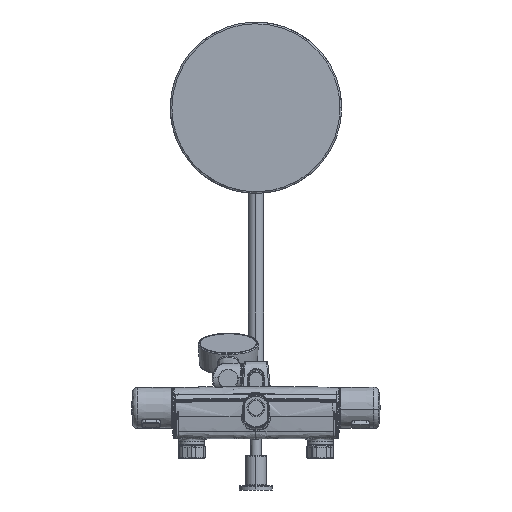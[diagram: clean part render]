
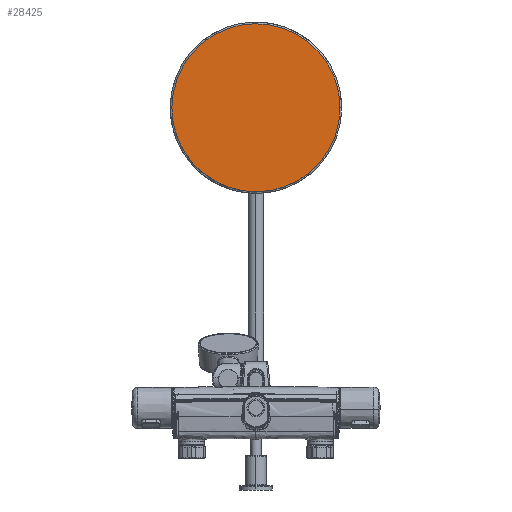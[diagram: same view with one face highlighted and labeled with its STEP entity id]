
A CAD part, front view. The second image highlights one B-rep face of the part: STEP entity #28425.
In plain terms, the highlighted planar face has unit normal (0, -1, 0).
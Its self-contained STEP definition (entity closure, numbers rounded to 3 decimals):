
#2043 = CARTESIAN_POINT ( 'NONE',  ( -31.577, 984.9, 442.995 ) ) ;
#2231 = CARTESIAN_POINT ( 'NONE',  ( -92.995, 984.9, 381.577 ) ) ;
#2418 = CARTESIAN_POINT ( 'NONE',  ( 98., 984.9, 356.414 ) ) ;
#2608 = CARTESIAN_POINT ( 'NONE',  ( -25.41, 984.9, 444.866 ) ) ;
#3635 = EDGE_CURVE ( 'NONE', #37174, #52134, #31879, .T. ) ;
#6618 = CARTESIAN_POINT ( 'NONE',  ( 49.113, 984.9, 435.048 ) ) ;
#6758 = CARTESIAN_POINT ( 'NONE',  ( 85.048, 984.9, 300.887 ) ) ;
#6807 = CARTESIAN_POINT ( 'NONE',  ( 6.414, 984.9, 448. ) ) ;
#7192 = CARTESIAN_POINT ( 'NONE',  ( 97.368, 984.9, 362.828 ) ) ;
#7342 = CARTESIAN_POINT ( 'NONE',  ( 59.779, 984.9, 272.079 ) ) ;
#7392 = CARTESIAN_POINT ( 'NONE',  ( -59.779, 984.9, 427.921 ) ) ;
#7953 = CARTESIAN_POINT ( 'NONE',  ( -98., 984.9, 343.586 ) ) ;
#11228 = CARTESIAN_POINT ( 'NONE',  ( -98., 984.9, 350. ) ) ;
#11353 = EDGE_CURVE ( 'NONE', #52134, #37174, #46435, .T. ) ;
#11424 = CARTESIAN_POINT ( 'NONE',  ( 59.779, 984.9, 427.921 ) ) ;
#11618 = CARTESIAN_POINT ( 'NONE',  ( -98., 984.9, 356.414 ) ) ;
#11807 = CARTESIAN_POINT ( 'NONE',  ( -77.921, 984.9, 409.779 ) ) ;
#12155 = CARTESIAN_POINT ( 'NONE',  ( -64.761, 984.9, 276.168 ) ) ;
#13143 = CARTESIAN_POINT ( 'NONE',  ( 98., 984.9, 350. ) ) ;
#15750 = CARTESIAN_POINT ( 'NONE',  ( 77.921, 984.9, 290.221 ) ) ;
#15800 = CARTESIAN_POINT ( 'NONE',  ( -64.761, 984.9, 423.832 ) ) ;
#15949 = CARTESIAN_POINT ( 'NONE',  ( 49.113, 984.9, 264.952 ) ) ;
#16144 = CARTESIAN_POINT ( 'NONE',  ( 6.414, 984.9, 252. ) ) ;
#16190 = CARTESIAN_POINT ( 'NONE',  ( -12.828, 984.9, 447.368 ) ) ;
#16334 = DIRECTION ( 'NONE',  ( 0., 1., 0. ) ) ;
#16384 = CARTESIAN_POINT ( 'NONE',  ( -73.832, 984.9, 414.761 ) ) ;
#17333 = CARTESIAN_POINT ( 'NONE',  ( -77.921, 984.9, 290.221 ) ) ;
#20384 = CARTESIAN_POINT ( 'NONE',  ( 85.048, 984.9, 399.113 ) ) ;
#20924 = CARTESIAN_POINT ( 'NONE',  ( 92.995, 984.9, 318.423 ) ) ;
#21178 = CARTESIAN_POINT ( 'NONE',  ( -6.414, 984.9, 448. ) ) ;
#21723 = CARTESIAN_POINT ( 'NONE',  ( -94.866, 984.9, 324.59 ) ) ;
#24927 = PLANE ( 'NONE',  #41123 ) ;
#24928 = CARTESIAN_POINT ( 'NONE',  ( 25.41, 984.9, 255.134 ) ) ;
#24979 = CARTESIAN_POINT ( 'NONE',  ( 25.41, 984.9, 444.866 ) ) ;
#25120 = CARTESIAN_POINT ( 'NONE',  ( -12.828, 984.9, 252.632 ) ) ;
#25361 = CARTESIAN_POINT ( 'NONE',  ( -43.429, 984.9, 438.086 ) ) ;
#25558 = CARTESIAN_POINT ( 'NONE',  ( 77.921, 984.9, 409.779 ) ) ;
#26705 = CARTESIAN_POINT ( 'NONE',  ( -98., 984.9, 350. ) ) ;
#28425 = ADVANCED_FACE ( 'NONE', ( #32196 ), #24927, .F. ) ;
#29700 = CARTESIAN_POINT ( 'NONE',  ( -31.577, 984.9, 257.005 ) ) ;
#30084 = CARTESIAN_POINT ( 'NONE',  ( 73.832, 984.9, 285.239 ) ) ;
#31094 = CARTESIAN_POINT ( 'NONE',  ( -49.113, 984.9, 264.952 ) ) ;
#31309 = CARTESIAN_POINT ( 'NONE',  ( -97.368, 984.9, 337.172 ) ) ;
#31879 = B_SPLINE_CURVE_WITH_KNOTS ( 'NONE', 3,
 ( #39052, #43044, #43429, #34494, #20924, #52803, #6758, #15750, #30084, #34691, #7342, #15949, #52409, #52226, #24928, #38672, #16144, #43226, #25120, #57017, #29700, #39443, #31094, #48630, #12155, #35292, #17333, #54011, #44612, #40239, #21723, #31309, #7953, #26705 ),
 .UNSPECIFIED., .F., .F.,
 ( 4, 2, 2, 2, 2, 2, 2, 2, 2, 2, 2, 2, 2, 2, 2, 2, 4 ),
 ( 0., 0.031, 0.063, 0.094, 0.125, 0.156, 0.188, 0.219, 0.25, 0.281, 0.312, 0.344, 0.375, 0.406, 0.437, 0.469, 0.5 ),
 .UNSPECIFIED. ) ;
#32196 = FACE_OUTER_BOUND ( 'NONE', #56994, .T. ) ;
#34151 = CARTESIAN_POINT ( 'NONE',  ( -85.048, 984.9, 399.113 ) ) ;
#34494 = CARTESIAN_POINT ( 'NONE',  ( 94.866, 984.9, 324.59 ) ) ;
#34691 = CARTESIAN_POINT ( 'NONE',  ( 64.761, 984.9, 276.168 ) ) ;
#35292 = CARTESIAN_POINT ( 'NONE',  ( -73.832, 984.9, 285.239 ) ) ;
#37174 = VERTEX_POINT ( 'NONE', #13143 ) ;
#38672 = CARTESIAN_POINT ( 'NONE',  ( 12.828, 984.9, 252.632 ) ) ;
#38719 = CARTESIAN_POINT ( 'NONE',  ( 94.866, 984.9, 375.41 ) ) ;
#39052 = CARTESIAN_POINT ( 'NONE',  ( 98., 984.9, 350. ) ) ;
#39443 = CARTESIAN_POINT ( 'NONE',  ( -43.429, 984.9, 261.914 ) ) ;
#40239 = CARTESIAN_POINT ( 'NONE',  ( -92.995, 984.9, 318.423 ) ) ;
#41123 = AXIS2_PLACEMENT_3D ( 'NONE', #52801, #16334, #52032 ) ;
#42532 = ORIENTED_EDGE ( 'NONE', *, *, #11353, .F. ) ;
#43044 = CARTESIAN_POINT ( 'NONE',  ( 98., 984.9, 343.586 ) ) ;
#43087 = CARTESIAN_POINT ( 'NONE',  ( 12.828, 984.9, 447.368 ) ) ;
#43148 = CARTESIAN_POINT ( 'NONE',  ( -98., 984.9, 350. ) ) ;
#43226 = CARTESIAN_POINT ( 'NONE',  ( -6.414, 984.9, 252. ) ) ;
#43325 = ORIENTED_EDGE ( 'NONE', *, *, #3635, .F. ) ;
#43429 = CARTESIAN_POINT ( 'NONE',  ( 97.368, 984.9, 337.172 ) ) ;
#43482 = CARTESIAN_POINT ( 'NONE',  ( -49.113, 984.9, 435.048 ) ) ;
#44612 = CARTESIAN_POINT ( 'NONE',  ( -88.086, 984.9, 306.571 ) ) ;
#46435 = B_SPLINE_CURVE_WITH_KNOTS ( 'NONE', 3,
 ( #11228, #11618, #56871, #57665, #2231, #48086, #34151, #11807, #16384, #15800, #7392, #43482, #25361, #2043, #2608, #16190, #21178, #6807, #43087, #24979, #57067, #52846, #6618, #11424, #57266, #48282, #25558, #20384, #47703, #52269, #38719, #7192, #2418, #52459 ),
 .UNSPECIFIED., .F., .F.,
 ( 4, 2, 2, 2, 2, 2, 2, 2, 2, 2, 2, 2, 2, 2, 2, 2, 4 ),
 ( 0.5, 0.531, 0.563, 0.594, 0.625, 0.656, 0.688, 0.719, 0.75, 0.781, 0.813, 0.844, 0.875, 0.906, 0.938, 0.969, 1. ),
 .UNSPECIFIED. ) ;
#47703 = CARTESIAN_POINT ( 'NONE',  ( 88.086, 984.9, 393.429 ) ) ;
#48086 = CARTESIAN_POINT ( 'NONE',  ( -88.086, 984.9, 393.429 ) ) ;
#48282 = CARTESIAN_POINT ( 'NONE',  ( 73.832, 984.9, 414.761 ) ) ;
#48630 = CARTESIAN_POINT ( 'NONE',  ( -59.779, 984.9, 272.079 ) ) ;
#52032 = DIRECTION ( 'NONE',  ( 1., 0., 0. ) ) ;
#52134 = VERTEX_POINT ( 'NONE', #43148 ) ;
#52226 = CARTESIAN_POINT ( 'NONE',  ( 31.577, 984.9, 257.005 ) ) ;
#52269 = CARTESIAN_POINT ( 'NONE',  ( 92.995, 984.9, 381.577 ) ) ;
#52409 = CARTESIAN_POINT ( 'NONE',  ( 43.429, 984.9, 261.914 ) ) ;
#52459 = CARTESIAN_POINT ( 'NONE',  ( 98., 984.9, 350. ) ) ;
#52801 = CARTESIAN_POINT ( 'NONE',  ( 0., 984.9, 350. ) ) ;
#52803 = CARTESIAN_POINT ( 'NONE',  ( 88.086, 984.9, 306.571 ) ) ;
#52846 = CARTESIAN_POINT ( 'NONE',  ( 43.429, 984.9, 438.086 ) ) ;
#54011 = CARTESIAN_POINT ( 'NONE',  ( -85.048, 984.9, 300.887 ) ) ;
#56871 = CARTESIAN_POINT ( 'NONE',  ( -97.368, 984.9, 362.828 ) ) ;
#56994 = EDGE_LOOP ( 'NONE', ( #43325, #42532 ) ) ;
#57017 = CARTESIAN_POINT ( 'NONE',  ( -25.41, 984.9, 255.134 ) ) ;
#57067 = CARTESIAN_POINT ( 'NONE',  ( 31.577, 984.9, 442.995 ) ) ;
#57266 = CARTESIAN_POINT ( 'NONE',  ( 64.761, 984.9, 423.832 ) ) ;
#57665 = CARTESIAN_POINT ( 'NONE',  ( -94.866, 984.9, 375.41 ) ) ;
